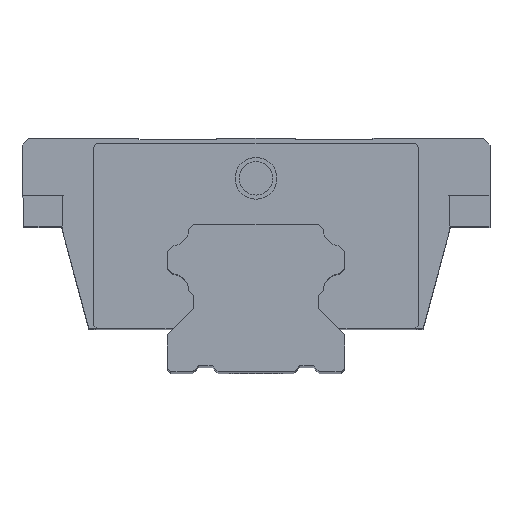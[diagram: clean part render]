
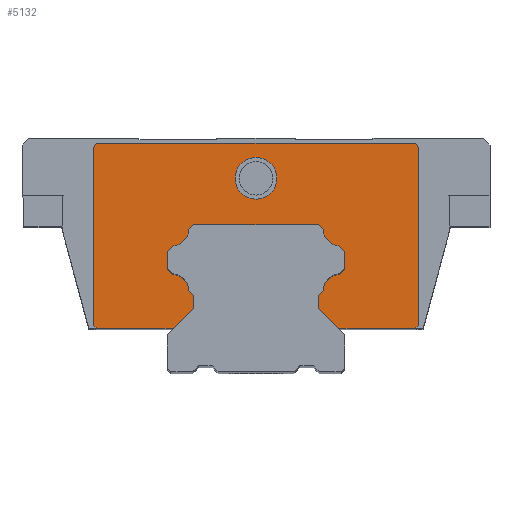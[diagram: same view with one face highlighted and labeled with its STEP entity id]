
A CAD part, top view. The second image highlights one B-rep face of the part: STEP entity #5132.
In plain terms, the highlighted planar face has unit normal (0, 0, 1).
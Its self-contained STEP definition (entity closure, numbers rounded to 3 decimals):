
#4330=DIRECTION('',(1.,0.,0.));
#4331=VECTOR('',#4330,23.);
#4332=CARTESIAN_POINT('',(-47.5,13.,83.35));
#4333=LINE('',#4332,#4331);
#4334=DIRECTION('',(0.707,-0.707,0.));
#4335=VECTOR('',#4334,1.414);
#4336=CARTESIAN_POINT('',(-48.5,14.,83.35));
#4337=LINE('',#4336,#4335);
#4338=DIRECTION('',(0.,-1.,0.));
#4339=VECTOR('',#4338,53.);
#4340=CARTESIAN_POINT('',(-48.5,67.,83.35));
#4341=LINE('',#4340,#4339);
#4342=CARTESIAN_POINT('',(-47.,67.,83.35));
#4343=DIRECTION('',(0.,0.,1.));
#4344=DIRECTION('',(0.,1.,0.));
#4345=AXIS2_PLACEMENT_3D('',#4342,#4343,#4344);
#4347=DIRECTION('',(-1.,0.,0.));
#4348=VECTOR('',#4347,94.);
#4349=CARTESIAN_POINT('',(47.,68.5,83.35));
#4350=LINE('',#4349,#4348);
#4351=CARTESIAN_POINT('',(47.,67.,83.35));
#4352=DIRECTION('',(0.,0.,1.));
#4353=DIRECTION('',(1.,0.,0.));
#4354=AXIS2_PLACEMENT_3D('',#4351,#4352,#4353);
#4356=DIRECTION('',(0.,1.,0.));
#4357=VECTOR('',#4356,53.);
#4358=CARTESIAN_POINT('',(48.5,14.,83.35));
#4359=LINE('',#4358,#4357);
#4360=DIRECTION('',(0.707,0.707,0.));
#4361=VECTOR('',#4360,1.414);
#4362=CARTESIAN_POINT('',(47.5,13.,83.35));
#4363=LINE('',#4362,#4361);
#4364=DIRECTION('',(1.,0.,0.));
#4365=VECTOR('',#4364,23.);
#4366=CARTESIAN_POINT('',(24.5,13.,83.35));
#4367=LINE('',#4366,#4365);
#4368=DIRECTION('',(0.707,-0.707,0.));
#4369=VECTOR('',#4368,8.415);
#4370=CARTESIAN_POINT('',(18.55,18.95,83.35));
#4371=LINE('',#4370,#4369);
#4372=DIRECTION('',(0.,-1.,0.));
#4373=VECTOR('',#4372,3.9);
#4374=CARTESIAN_POINT('',(18.55,22.85,83.35));
#4375=LINE('',#4374,#4373);
#4376=DIRECTION('',(-0.707,-0.707,0.));
#4377=VECTOR('',#4376,2.116);
#4378=CARTESIAN_POINT('',(20.046,24.346,83.35));
#4379=LINE('',#4378,#4377);
#4380=CARTESIAN_POINT('',(25.336,24.014,83.35));
#4381=DIRECTION('',(0.,0.,1.));
#4382=DIRECTION('',(-0.063,0.998,0.));
#4383=AXIS2_PLACEMENT_3D('',#4380,#4381,#4382);
#4385=DIRECTION('',(-0.707,-0.707,0.));
#4386=VECTOR('',#4385,2.116);
#4387=CARTESIAN_POINT('',(26.5,30.8,83.35));
#4388=LINE('',#4387,#4386);
#4389=DIRECTION('',(0.,-1.,0.));
#4390=VECTOR('',#4389,5.25);
#4391=CARTESIAN_POINT('',(26.5,36.05,83.35));
#4392=LINE('',#4391,#4390);
#4393=DIRECTION('',(0.707,-0.707,0.));
#4394=VECTOR('',#4393,2.116);
#4395=CARTESIAN_POINT('',(25.004,37.546,83.35));
#4396=LINE('',#4395,#4394);
#4397=CARTESIAN_POINT('',(25.336,42.836,83.35));
#4398=DIRECTION('',(0.,0.,1.));
#4399=DIRECTION('',(-0.998,-0.063,0.));
#4400=AXIS2_PLACEMENT_3D('',#4397,#4398,#4399);
#4402=DIRECTION('',(0.707,-0.707,0.));
#4403=VECTOR('',#4402,2.116);
#4404=CARTESIAN_POINT('',(18.55,44.,83.35));
#4405=LINE('',#4404,#4403);
#4406=DIRECTION('',(1.,0.,0.));
#4407=VECTOR('',#4406,37.1);
#4408=CARTESIAN_POINT('',(-18.55,44.,83.35));
#4409=LINE('',#4408,#4407);
#4410=DIRECTION('',(0.707,0.707,0.));
#4411=VECTOR('',#4410,2.116);
#4412=CARTESIAN_POINT('',(-20.046,42.504,83.35));
#4413=LINE('',#4412,#4411);
#4414=CARTESIAN_POINT('',(-25.336,42.836,83.35));
#4415=DIRECTION('',(0.,0.,1.));
#4416=DIRECTION('',(0.063,-0.998,0.));
#4417=AXIS2_PLACEMENT_3D('',#4414,#4415,#4416);
#4419=DIRECTION('',(0.707,0.707,0.));
#4420=VECTOR('',#4419,2.116);
#4421=CARTESIAN_POINT('',(-26.5,36.05,83.35));
#4422=LINE('',#4421,#4420);
#4423=DIRECTION('',(0.,1.,0.));
#4424=VECTOR('',#4423,5.25);
#4425=CARTESIAN_POINT('',(-26.5,30.8,83.35));
#4426=LINE('',#4425,#4424);
#4427=DIRECTION('',(-0.707,0.707,0.));
#4428=VECTOR('',#4427,2.116);
#4429=CARTESIAN_POINT('',(-25.004,29.304,83.35));
#4430=LINE('',#4429,#4428);
#4431=CARTESIAN_POINT('',(-25.336,24.014,83.35));
#4432=DIRECTION('',(0.,0.,1.));
#4433=DIRECTION('',(0.998,0.063,0.));
#4434=AXIS2_PLACEMENT_3D('',#4431,#4432,#4433);
#4436=DIRECTION('',(-0.707,0.707,0.));
#4437=VECTOR('',#4436,2.116);
#4438=CARTESIAN_POINT('',(-18.55,22.85,83.35));
#4439=LINE('',#4438,#4437);
#4440=DIRECTION('',(0.,1.,0.));
#4441=VECTOR('',#4440,3.9);
#4442=CARTESIAN_POINT('',(-18.55,18.95,83.35));
#4443=LINE('',#4442,#4441);
#4444=DIRECTION('',(0.707,0.707,0.));
#4445=VECTOR('',#4444,8.415);
#4446=CARTESIAN_POINT('',(-24.5,13.,83.35));
#4447=LINE('',#4446,#4445);
#4448=CARTESIAN_POINT('',(0.,58.,83.35));
#4449=DIRECTION('',(0.,0.,1.));
#4450=DIRECTION('',(1.,0.,0.));
#4451=AXIS2_PLACEMENT_3D('',#4448,#4449,#4450);
#4453=CARTESIAN_POINT('',(0.,58.,83.35));
#4454=DIRECTION('',(0.,0.,1.));
#4455=DIRECTION('',(-1.,0.,0.));
#4456=AXIS2_PLACEMENT_3D('',#4453,#4454,#4455);
#4806=CARTESIAN_POINT('',(-47.5,13.,83.35));
#4807=CARTESIAN_POINT('',(-24.5,13.,83.35));
#4808=VERTEX_POINT('',#4806);
#4809=VERTEX_POINT('',#4807);
#4810=CARTESIAN_POINT('',(-18.55,18.95,83.35));
#4811=VERTEX_POINT('',#4810);
#4812=CARTESIAN_POINT('',(-18.55,22.85,83.35));
#4813=VERTEX_POINT('',#4812);
#4814=CARTESIAN_POINT('',(-20.046,24.346,83.35));
#4815=VERTEX_POINT('',#4814);
#4816=CARTESIAN_POINT('',(-25.004,29.304,83.35));
#4817=VERTEX_POINT('',#4816);
#4818=CARTESIAN_POINT('',(-26.5,30.8,83.35));
#4819=VERTEX_POINT('',#4818);
#4820=CARTESIAN_POINT('',(-26.5,36.05,83.35));
#4821=VERTEX_POINT('',#4820);
#4822=CARTESIAN_POINT('',(-25.004,37.546,83.35));
#4823=VERTEX_POINT('',#4822);
#4824=CARTESIAN_POINT('',(-20.046,42.504,83.35));
#4825=VERTEX_POINT('',#4824);
#4826=CARTESIAN_POINT('',(-18.55,44.,83.35));
#4827=VERTEX_POINT('',#4826);
#4828=CARTESIAN_POINT('',(18.55,44.,83.35));
#4829=VERTEX_POINT('',#4828);
#4830=CARTESIAN_POINT('',(20.046,42.504,83.35));
#4831=VERTEX_POINT('',#4830);
#4832=CARTESIAN_POINT('',(25.004,37.546,83.35));
#4833=VERTEX_POINT('',#4832);
#4834=CARTESIAN_POINT('',(26.5,36.05,83.35));
#4835=VERTEX_POINT('',#4834);
#4836=CARTESIAN_POINT('',(26.5,30.8,83.35));
#4837=VERTEX_POINT('',#4836);
#4838=CARTESIAN_POINT('',(25.004,29.304,83.35));
#4839=VERTEX_POINT('',#4838);
#4840=CARTESIAN_POINT('',(20.046,24.346,83.35));
#4841=VERTEX_POINT('',#4840);
#4842=CARTESIAN_POINT('',(18.55,22.85,83.35));
#4843=VERTEX_POINT('',#4842);
#4844=CARTESIAN_POINT('',(18.55,18.95,83.35));
#4845=VERTEX_POINT('',#4844);
#4846=CARTESIAN_POINT('',(24.5,13.,83.35));
#4847=VERTEX_POINT('',#4846);
#4848=CARTESIAN_POINT('',(47.5,13.,83.35));
#4849=VERTEX_POINT('',#4848);
#4850=CARTESIAN_POINT('',(48.5,14.,83.35));
#4851=VERTEX_POINT('',#4850);
#4852=CARTESIAN_POINT('',(48.5,67.,83.35));
#4853=VERTEX_POINT('',#4852);
#4854=CARTESIAN_POINT('',(47.,68.5,83.35));
#4855=VERTEX_POINT('',#4854);
#4856=CARTESIAN_POINT('',(-47.,68.5,83.35));
#4857=VERTEX_POINT('',#4856);
#4858=CARTESIAN_POINT('',(-48.5,67.,83.35));
#4859=VERTEX_POINT('',#4858);
#4860=CARTESIAN_POINT('',(-48.5,14.,83.35));
#4861=VERTEX_POINT('',#4860);
#4898=CARTESIAN_POINT('',(6.25,58.,83.35));
#4899=CARTESIAN_POINT('',(-6.25,58.,83.35));
#4900=VERTEX_POINT('',#4898);
#4901=VERTEX_POINT('',#4899);
#5065=CARTESIAN_POINT('',(-50.,80.,83.35));
#5066=DIRECTION('',(0.,0.,1.));
#5067=DIRECTION('',(1.,0.,0.));
#5068=AXIS2_PLACEMENT_3D('',#5065,#5066,#5067);
#5069=PLANE('',#5068);
#5070=ORIENTED_EDGE('',*,*,#4975,.F.);
#5072=ORIENTED_EDGE('',*,*,#5071,.F.);
#5074=ORIENTED_EDGE('',*,*,#5073,.F.);
#5076=ORIENTED_EDGE('',*,*,#5075,.F.);
#5078=ORIENTED_EDGE('',*,*,#5077,.F.);
#5080=ORIENTED_EDGE('',*,*,#5079,.F.);
#5082=ORIENTED_EDGE('',*,*,#5081,.F.);
#5084=ORIENTED_EDGE('',*,*,#5083,.F.);
#5086=ORIENTED_EDGE('',*,*,#5085,.F.);
#5088=ORIENTED_EDGE('',*,*,#5087,.F.);
#5090=ORIENTED_EDGE('',*,*,#5089,.F.);
#5092=ORIENTED_EDGE('',*,*,#5091,.F.);
#5094=ORIENTED_EDGE('',*,*,#5093,.F.);
#5096=ORIENTED_EDGE('',*,*,#5095,.F.);
#5098=ORIENTED_EDGE('',*,*,#5097,.F.);
#5100=ORIENTED_EDGE('',*,*,#5099,.F.);
#5102=ORIENTED_EDGE('',*,*,#5101,.F.);
#5104=ORIENTED_EDGE('',*,*,#5103,.F.);
#5106=ORIENTED_EDGE('',*,*,#5105,.F.);
#5108=ORIENTED_EDGE('',*,*,#5107,.F.);
#5110=ORIENTED_EDGE('',*,*,#5109,.F.);
#5112=ORIENTED_EDGE('',*,*,#5111,.F.);
#5114=ORIENTED_EDGE('',*,*,#5113,.F.);
#5116=ORIENTED_EDGE('',*,*,#5115,.F.);
#5118=ORIENTED_EDGE('',*,*,#5117,.F.);
#5120=ORIENTED_EDGE('',*,*,#5119,.F.);
#5122=ORIENTED_EDGE('',*,*,#5121,.F.);
#5123=ORIENTED_EDGE('',*,*,#5058,.F.);
#5124=EDGE_LOOP('',(#5070,#5072,#5074,#5076,#5078,#5080,#5082,#5084,#5086,#5088,
#5090,#5092,#5094,#5096,#5098,#5100,#5102,#5104,#5106,#5108,#5110,#5112,#5114,
#5116,#5118,#5120,#5122,#5123));
#5125=FACE_OUTER_BOUND('',#5124,.F.);
#5127=ORIENTED_EDGE('',*,*,#5126,.T.);
#5129=ORIENTED_EDGE('',*,*,#5128,.T.);
#5130=EDGE_LOOP('',(#5127,#5129));
#5131=FACE_BOUND('',#5130,.F.);
#5132=ADVANCED_FACE('',(#5125,#5131),#5069,.T.);
#4346=CIRCLE('',#4345,1.5);
#4355=CIRCLE('',#4354,1.5);
#4384=CIRCLE('',#4383,5.3);
#4401=CIRCLE('',#4400,5.3);
#4418=CIRCLE('',#4417,5.3);
#4435=CIRCLE('',#4434,5.3);
#4452=CIRCLE('',#4451,6.25);
#4457=CIRCLE('',#4456,6.25);
#4975=EDGE_CURVE('',#4808,#4809,#4333,.T.);
#5058=EDGE_CURVE('',#4809,#4811,#4447,.T.);
#5071=EDGE_CURVE('',#4861,#4808,#4337,.T.);
#5073=EDGE_CURVE('',#4859,#4861,#4341,.T.);
#5075=EDGE_CURVE('',#4857,#4859,#4346,.T.);
#5077=EDGE_CURVE('',#4855,#4857,#4350,.T.);
#5079=EDGE_CURVE('',#4853,#4855,#4355,.T.);
#5081=EDGE_CURVE('',#4851,#4853,#4359,.T.);
#5083=EDGE_CURVE('',#4849,#4851,#4363,.T.);
#5085=EDGE_CURVE('',#4847,#4849,#4367,.T.);
#5087=EDGE_CURVE('',#4845,#4847,#4371,.T.);
#5089=EDGE_CURVE('',#4843,#4845,#4375,.T.);
#5091=EDGE_CURVE('',#4841,#4843,#4379,.T.);
#5093=EDGE_CURVE('',#4839,#4841,#4384,.T.);
#5095=EDGE_CURVE('',#4837,#4839,#4388,.T.);
#5097=EDGE_CURVE('',#4835,#4837,#4392,.T.);
#5099=EDGE_CURVE('',#4833,#4835,#4396,.T.);
#5101=EDGE_CURVE('',#4831,#4833,#4401,.T.);
#5103=EDGE_CURVE('',#4829,#4831,#4405,.T.);
#5105=EDGE_CURVE('',#4827,#4829,#4409,.T.);
#5107=EDGE_CURVE('',#4825,#4827,#4413,.T.);
#5109=EDGE_CURVE('',#4823,#4825,#4418,.T.);
#5111=EDGE_CURVE('',#4821,#4823,#4422,.T.);
#5113=EDGE_CURVE('',#4819,#4821,#4426,.T.);
#5115=EDGE_CURVE('',#4817,#4819,#4430,.T.);
#5117=EDGE_CURVE('',#4815,#4817,#4435,.T.);
#5119=EDGE_CURVE('',#4813,#4815,#4439,.T.);
#5121=EDGE_CURVE('',#4811,#4813,#4443,.T.);
#5126=EDGE_CURVE('',#4900,#4901,#4452,.T.);
#5128=EDGE_CURVE('',#4901,#4900,#4457,.T.);
